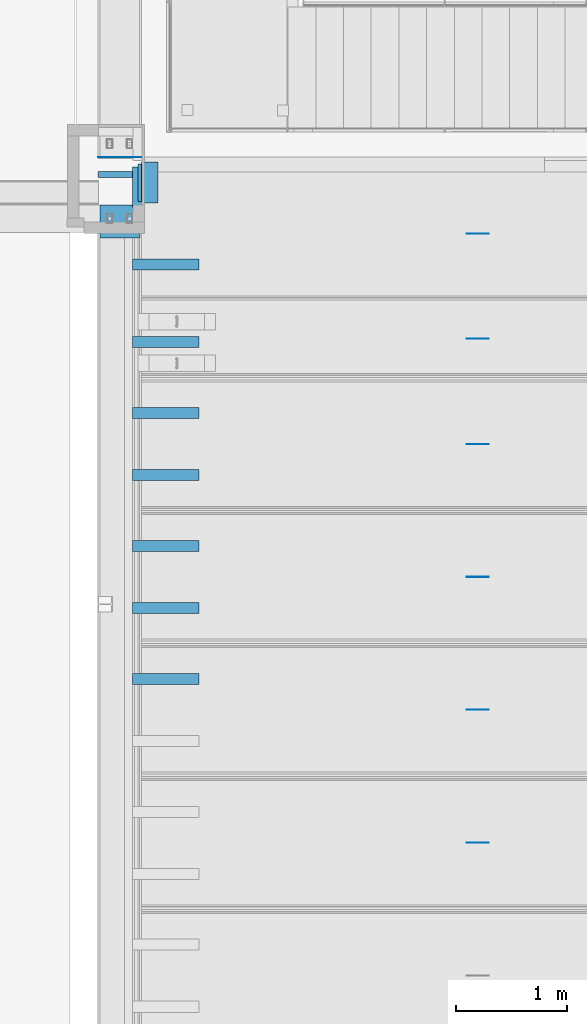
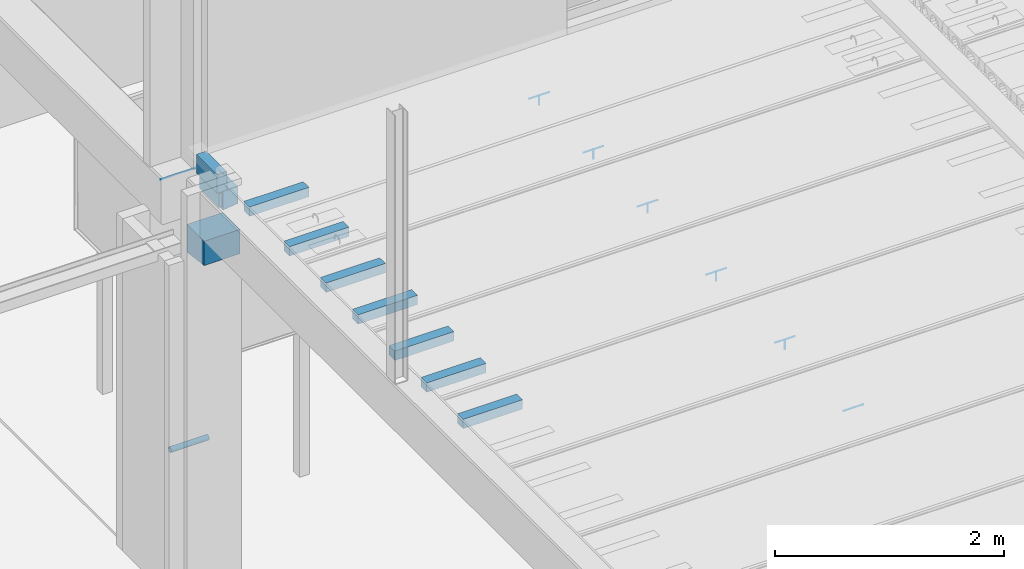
# One storey, part 12 of 230: 24 beams.
"""IFC4X3_ADD2 building model written with IfcOpenShell, lengths in millimetres."""

from ifc_helpers import new_model, entity, si_unit, direction, frame, frame_2d, origin_with_axes, place, context, subcontext, project, spatial, rectangle, hollow_circle, extrude, material, element, save


model = new_model("IFC4X3_ADD2")

# Units and contexts
model_context = context("Model", 3, precision=1e-05, world=origin_with_axes(), true_north=direction((0.0, 1.0)))
body_context = subcontext(model_context, "Body", "Model", "MODEL_VIEW")
ifc_project = project(units=[si_unit("LENGTHUNIT", "METRE", prefix="MILLI"), si_unit("AREAUNIT", "SQUARE_METRE"), si_unit("VOLUMEUNIT", "CUBIC_METRE"), si_unit("PLANEANGLEUNIT", "RADIAN"), si_unit("TIMEUNIT", "SECOND"), si_unit("MASSUNIT", "GRAM")], contexts=[model_context])

# Site, building, storey
site_placement = place(None, origin_with_axes())
site = spatial("IfcSite", under=ifc_project, at=site_placement, Name="Site", CompositionType="ELEMENT")
building_placement = place(site_placement, origin_with_axes())
building = spatial("IfcBuilding", under=site, at=building_placement, Name="IFC Building Story")
storey_placement = place(building_placement, origin_with_axes())
storey = spatial("IfcBuildingStorey", under=building, at=storey_placement, Name="ETAGE 00 (0)", Elevation=0.0)

# Beams
ifc_material_1 = material(Name="STEEL/Accessory_C60/75")
beam_1_placement = place(storey_placement, frame((33225.1882547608, -150.000036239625, 3610.0), z_axis=(1.0, 0.0, 0.0), x_axis=(0.0, 0.0, 1.0)))
element("IfcBeam", 1, at=beam_1_placement, inside=storey, material=ifc_material_1, Name="BEK1", ObjectType="CORBEL300-300-260", context=body_context, shape_type="SweptSolid", body=[
    extrude(entity("IfcTrapeziumProfileDef", "AREA", None, entity("IfcAxis2Placement2D", entity("IfcCartesianPoint", [0.0, 5.95523630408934e-12]), entity("IfcDirection", [1.0, 0.0])), 300.0, 260.0, 300.0, 40.0), origin_with_axes(), (0.0, 0.0, 1.0), 360.0),
])
ifc_material_2 = material(Name="STEEL/Accessory_C50/60 64192")
beam_2_placement = place(storey_placement, frame((33671.1882547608, 14.9999637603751, 3870.0), z_axis=(0.0, 1.0, 0.0), x_axis=(0.0, 0.0, 1.0)))
element("IfcBeam", 2, at=beam_2_placement, inside=storey, material=ifc_material_2, Name="BEK1", ObjectType="CORBEL200-150-180", context=body_context, shape_type="SweptSolid", body=[
    extrude(entity("IfcTrapeziumProfileDef", "AREA", None, entity("IfcAxis2Placement2D", entity("IfcCartesianPoint", [0.0, 5.95523630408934e-12]), entity("IfcDirection", [1.0, 0.0])), 200.0, 180.0, 150.0, 19.9999999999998), origin_with_axes(), (0.0, 0.0, 1.0), 369.9999999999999),
])
ifc_material_3 = material(Name="STEEL/Accessory_invisible")
for number, where, z_axis, x_axis, name in (
    (3, (34115.6922247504, -3079.999771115, 4150.0), (-1.0, 0.0, 0.0), (0.0, 1.0, 0.0), "ES7"),
    (4, (34115.6922247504, -3639.999771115, 4150.0), (-1.0, 0.0, 0.0), (0.0, 1.0, 0.0), "ES7"),
):
    element("IfcBeam", number, at=place(storey_placement, frame(where, z_axis=z_axis, x_axis=x_axis)), inside=storey, material=ifc_material_3, Name=name, ObjectType="100*100", context=body_context, shape_type="SweptSolid", body=[
        extrude(rectangle(XDim=100.0, YDim=99.99999999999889, at=frame_2d((0.0, 5.95523630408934e-12), x_axis=(1.0, 0.0))), origin_with_axes(), (0.0, 0.0, 1.0), 600.0),
    ])
ifc_material_4 = material(Name="STEEL/Accessory_invisible 261")
beam_3_placement = place(storey_placement, frame((36633.6922247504, -3359.999771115, 4049.9999909), z_axis=(-1.0, 0.0, 0.0), x_axis=(0.0, 0.0, -1.0)))
element("IfcBeam", 5, at=beam_3_placement, inside=storey, material=ifc_material_4, Name="ES6", ObjectType="1*1 2", context=body_context, shape_type="SweptSolid", body=[
    extrude(rectangle(XDim=100.0, YDim=0.9999999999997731, at=frame_2d((0.0, 5.95523630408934e-12), x_axis=(1.0, 0.0))), origin_with_axes(), (0.0, 0.0, 1.0), 1.0),
])
beam_4_placement = place(storey_placement, frame((36733.1922247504, -3359.999771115, 4100.0), z_axis=(-1.0, 0.0, 0.0), x_axis=(0.0, 1.0, 0.0)))
element("IfcBeam", 6, at=beam_4_placement, inside=storey, material=ifc_material_4, Name="ES31", ObjectType="1*1 3", context=body_context, shape_type="SweptSolid", body=[
    extrude(rectangle(XDim=0.9999999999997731, YDim=0.9999999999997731, at=frame_2d((0.0, 5.95523630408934e-12), x_axis=(1.0, 0.0))), origin_with_axes(), (0.0, 0.0, 1.0), 200.0),
])
beam_5_placement = place(storey_placement, frame((34115.6922247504, -4279.999771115, 4150.0), z_axis=(-1.0, 0.0, 0.0), x_axis=(0.0, 1.0, 0.0)))
element("IfcBeam", 7, at=beam_5_placement, inside=storey, material=ifc_material_3, Name="ES7", ObjectType="100*100", context=body_context, shape_type="SweptSolid", body=[
    extrude(rectangle(XDim=100.0, YDim=99.99999999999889, at=frame_2d((0.0, 5.95523630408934e-12), x_axis=(1.0, 0.0))), origin_with_axes(), (0.0, 0.0, 1.0), 600.0),
])
beam_6_placement = place(storey_placement, frame((36633.6922247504, -4559.999771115, 4049.9999909), z_axis=(-1.0, 0.0, 0.0), x_axis=(0.0, 0.0, -1.0)))
element("IfcBeam", 8, at=beam_6_placement, inside=storey, material=ifc_material_4, Name="ES6", ObjectType="1*1 2", context=body_context, shape_type="SweptSolid", body=[
    extrude(rectangle(XDim=100.0, YDim=0.9999999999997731, at=frame_2d((0.0, 5.95523630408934e-12), x_axis=(1.0, 0.0))), origin_with_axes(), (0.0, 0.0, 1.0), 1.0),
])
for number, where, z_axis, x_axis, name in (
    (9, (36733.1922247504, -4559.999771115, 4100.0), (-1.0, 0.0, 0.0), (0.0, 1.0, 0.0), "ES31"),
    (10, (36733.1922247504, -5759.999771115, 4100.0), (-1.0, 0.0, 0.0), (0.0, 1.0, 0.0), "ES31"),
):
    element("IfcBeam", number, at=place(storey_placement, frame(where, z_axis=z_axis, x_axis=x_axis)), inside=storey, material=ifc_material_4, Name=name, ObjectType="1*1 3", context=body_context, shape_type="SweptSolid", body=[
        extrude(rectangle(XDim=0.9999999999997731, YDim=0.9999999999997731, at=frame_2d((0.0, 5.95523630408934e-12), x_axis=(1.0, 0.0))), origin_with_axes(), (0.0, 0.0, 1.0), 200.0),
    ])
beam_7_placement = place(storey_placement, frame((33515.6922247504, 160.000228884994, 4099.9999909), z_axis=(1.0, 0.0, 0.0), x_axis=(0.0, 0.0, -1.0)))
element("IfcBeam", 11, at=beam_7_placement, inside=storey, material=ifc_material_3, Name="ES32", ObjectType="200*360", context=body_context, shape_type="SweptSolid", body=[
    extrude(rectangle(XDim=200.0, YDim=360.0, at=frame_2d((0.0, 5.95523630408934e-12), x_axis=(1.0, 0.0))), origin_with_axes(), (0.0, 0.0, 1.0), 100.0),
])
beam_8_placement = place(storey_placement, frame((34115.6922247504, -539.999771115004, 4150.0), z_axis=(-1.0, 0.0, 0.0), x_axis=(0.0, 1.0, 0.0)))
element("IfcBeam", 12, at=beam_8_placement, inside=storey, material=ifc_material_3, Name="ES7", ObjectType="100*100", context=body_context, shape_type="SweptSolid", body=[
    extrude(rectangle(XDim=100.0, YDim=99.99999999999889, at=frame_2d((0.0, 5.95523630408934e-12), x_axis=(1.0, 0.0))), origin_with_axes(), (0.0, 0.0, 1.0), 600.0),
])
beam_9_placement = place(storey_placement, frame((36633.6922247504, -259.999771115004, 4049.9999909), z_axis=(-1.0, 0.0, 0.0), x_axis=(0.0, 0.0, -1.0)))
element("IfcBeam", 13, at=beam_9_placement, inside=storey, material=ifc_material_4, Name="ES6", ObjectType="1*1 2", context=body_context, shape_type="SweptSolid", body=[
    extrude(rectangle(XDim=100.0, YDim=0.9999999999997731, at=frame_2d((0.0, 5.95523630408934e-12), x_axis=(1.0, 0.0))), origin_with_axes(), (0.0, 0.0, 1.0), 1.0),
])
beam_10_placement = place(storey_placement, frame((36733.1922247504, -259.999771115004, 4100.0), z_axis=(-1.0, 0.0, 0.0), x_axis=(0.0, 1.0, 0.0)))
element("IfcBeam", 14, at=beam_10_placement, inside=storey, material=ifc_material_4, Name="ES31", ObjectType="1*1 3", context=body_context, shape_type="SweptSolid", body=[
    extrude(rectangle(XDim=0.9999999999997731, YDim=0.9999999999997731, at=frame_2d((0.0, 5.95523630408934e-12), x_axis=(1.0, 0.0))), origin_with_axes(), (0.0, 0.0, 1.0), 200.0),
])
for number, where, z_axis, x_axis, name in (
    (15, (34115.6922247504, -1879.999771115, 4150.0), (-1.0, 0.0, 0.0), (0.0, 1.0, 0.0), "ES7"),
    (16, (34115.6922247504, -2439.999771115, 4150.0), (-1.0, 0.0, 0.0), (0.0, 1.0, 0.0), "ES7"),
):
    element("IfcBeam", number, at=place(storey_placement, frame(where, z_axis=z_axis, x_axis=x_axis)), inside=storey, material=ifc_material_3, Name=name, ObjectType="100*100", context=body_context, shape_type="SweptSolid", body=[
        extrude(rectangle(XDim=100.0, YDim=99.99999999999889, at=frame_2d((0.0, 5.95523630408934e-12), x_axis=(1.0, 0.0))), origin_with_axes(), (0.0, 0.0, 1.0), 600.0),
    ])
beam_11_placement = place(storey_placement, frame((36633.6922247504, -2159.999771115, 4049.9999909), z_axis=(-1.0, 0.0, 0.0), x_axis=(0.0, 0.0, -1.0)))
element("IfcBeam", 17, at=beam_11_placement, inside=storey, material=ifc_material_4, Name="ES6", ObjectType="1*1 2", context=body_context, shape_type="SweptSolid", body=[
    extrude(rectangle(XDim=100.0, YDim=0.9999999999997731, at=frame_2d((0.0, 5.95523630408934e-12), x_axis=(1.0, 0.0))), origin_with_axes(), (0.0, 0.0, 1.0), 1.0),
])
beam_12_placement = place(storey_placement, frame((36733.1922247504, -2159.999771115, 4100.0), z_axis=(-1.0, 0.0, 0.0), x_axis=(0.0, 1.0, 0.0)))
element("IfcBeam", 18, at=beam_12_placement, inside=storey, material=ifc_material_4, Name="ES31", ObjectType="1*1 3", context=body_context, shape_type="SweptSolid", body=[
    extrude(rectangle(XDim=0.9999999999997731, YDim=0.9999999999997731, at=frame_2d((0.0, 5.95523630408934e-12), x_axis=(1.0, 0.0))), origin_with_axes(), (0.0, 0.0, 1.0), 200.0),
])
beam_13_placement = place(storey_placement, frame((34115.6922247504, -1239.999752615, 4150.0), z_axis=(-1.0, 0.0, 0.0), x_axis=(0.0, 1.0, 0.0)))
element("IfcBeam", 19, at=beam_13_placement, inside=storey, material=ifc_material_3, Name="ES7", ObjectType="100*100", context=body_context, shape_type="SweptSolid", body=[
    extrude(rectangle(XDim=100.0, YDim=99.99999999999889, at=frame_2d((0.0, 5.95523630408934e-12), x_axis=(1.0, 0.0))), origin_with_axes(), (0.0, 0.0, 1.0), 600.0),
])
beam_14_placement = place(storey_placement, frame((36633.6922247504, -1209.999761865, 4049.9999909), z_axis=(-1.0, 0.0, 0.0), x_axis=(0.0, 0.0, -1.0)))
element("IfcBeam", 20, at=beam_14_placement, inside=storey, material=ifc_material_4, Name="ES6", ObjectType="1*1 2", context=body_context, shape_type="SweptSolid", body=[
    extrude(rectangle(XDim=100.0, YDim=0.9999999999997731, at=frame_2d((0.0, 5.95523630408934e-12), x_axis=(1.0, 0.0))), origin_with_axes(), (0.0, 0.0, 1.0), 1.0),
])
beam_15_placement = place(storey_placement, frame((36733.1922247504, -1209.999761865, 4100.0), z_axis=(-1.0, 0.0, 0.0), x_axis=(0.0, 1.0, 0.0)))
element("IfcBeam", 21, at=beam_15_placement, inside=storey, material=ifc_material_4, Name="ES31", ObjectType="1*1 3", context=body_context, shape_type="SweptSolid", body=[
    extrude(rectangle(XDim=0.9999999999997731, YDim=0.9999999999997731, at=frame_2d((0.0, 5.95523630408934e-12), x_axis=(1.0, 0.0))), origin_with_axes(), (0.0, 0.0, 1.0), 200.0),
])
beam_16_placement = place(storey_placement, frame((33596.188, 429.999963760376, 3984.5), z_axis=(-1.0, 0.0, 0.0), x_axis=(0.0, 1.0, 0.0)))
element("IfcBeam", 22, at=beam_16_placement, inside=storey, material=ifc_material_3, Name="ZW3", ObjectType="1*1 3", context=body_context, shape_type="SweptSolid", body=[
    extrude(rectangle(XDim=0.9999999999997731, YDim=0.9999999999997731, at=frame_2d((0.0, 5.95523630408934e-12), x_axis=(1.0, 0.0))), origin_with_axes(), (0.0, 0.0, 1.0), 390.0),
])
ifc_material_5 = material(Name="STEEL/Accessory_EPS")
beam_17_placement = place(storey_placement, frame((33566.1882547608, 199.999963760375, 3874.99999999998), z_axis=(1.0, 0.0, 0.0), x_axis=(0.0, 0.0, -1.0)))
element("IfcBeam", 23, at=beam_17_placement, inside=storey, material=ifc_material_5, Name="POL4", ObjectType="30*340", context=body_context, shape_type="SweptSolid", body=[
    extrude(rectangle(XDim=150.0, YDim=340.0, at=frame_2d((0.0, 5.95523630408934e-12), x_axis=(1.0, 0.0))), origin_with_axes(), (0.0, 0.0, 1.0), 30.00000000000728),
])
ifc_material_6 = material(Name="STEEL/Accessory_PVC")
beam_18_placement = place(storey_placement, frame((33209.1882548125, 274.999963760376, 1190.0), z_axis=(1.0, 0.0, 0.0), x_axis=(0.0, 0.0, -1.0)))
element("IfcBeam", 24, at=beam_18_placement, inside=storey, material=ifc_material_6, Name="PS13", ObjectType="O56*3", context=body_context, shape_type="SweptSolid", body=[
    extrude(hollow_circle(Radius=28.0, WallThickness=3.0, at=frame_2d((0.0, 5.95523630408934e-12), x_axis=(1.0, 0.0))), origin_with_axes(), (0.0, 0.0, 1.0), 384.0),
])

save(model, "model.ifc")
